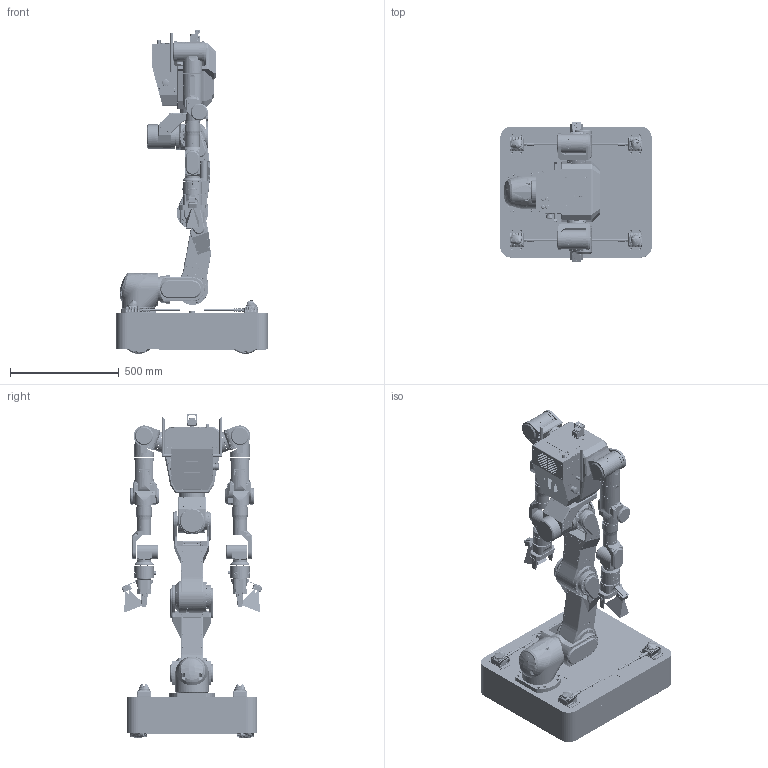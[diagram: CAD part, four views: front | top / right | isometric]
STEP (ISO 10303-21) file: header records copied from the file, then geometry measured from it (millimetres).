
FILE_DESCRIPTION(/* description */ (''),/* implementation_level */ '2;1');
FILE_NAME(/* name */ 'RB-Y1_v1.1_3D_Fast Grip_MW_260107.stp',/* time_stamp */ '2026-01-08T15:45:28+09:00',/* author */ ('KiWook.H'),/* organization */ (''),/* preprocessor_version */ 'ST-DEVELOPER v20',/* originating_system */ 'Autodesk Inventor 2025',/* authorisation */ '');
FILE_SCHEMA (('AUTOMOTIVE_DESIGN { 1 0 10303 214 3 1 1 }'));
Products named in the file (22): RB-Y1_v1.1_3D_Fast Grip_MW_260107; 000_Base_Macanum_v1.1; 001_AR_v1.1; 002_AP_v1.1; 003_KN_v1.1; 004_HP_v1.1; 005_HR_v1.1; 006_HY_v1.1; 007_SP_R_v1.1; 008_SR_R_v1.1; 009_SY_R_v1.1; 010_EL_R_v1.1; 011_WY1_R_v1.1; 012_WP_R_v1.1; 014_SP_L_v1.1; 015_SR_L_v1.1; 016_SY_L_v1.1; 017_EL_L_v1.1; 018_WY1_L_v1.1; 019_WP_L_v1.1; 020_FTsensor TF_v1.1; 021_Gripper_Fast_v1.1
Assembly tree (23 placements, depth 2):
  RB-Y1_v1.1_3D_Fast Grip_MW_260107
    000_Base_Macanum_v1.1
    001_AR_v1.1
    002_AP_v1.1
    003_KN_v1.1
    004_HP_v1.1
    005_HR_v1.1
    006_HY_v1.1
    007_SP_R_v1.1
    008_SR_R_v1.1
    009_SY_R_v1.1
    010_EL_R_v1.1
    011_WY1_R_v1.1
    012_WP_R_v1.1
    014_SP_L_v1.1
    015_SR_L_v1.1
    016_SY_L_v1.1
    017_EL_L_v1.1
    018_WY1_L_v1.1
    019_WP_L_v1.1
    020_FTsensor TF_v1.1  x2
    021_Gripper_Fast_v1.1  x2
Bounding box: 695 x 646.07 x 1486.2 mm (x, y, z)
Volume: 92745141.8 mm3; surface area: 7123697.9 mm2
Topology: 1673 solids, 2352 shells, 30890 faces, 77953 edges, 50106 vertices
Faces by surface type: plane 13889, cylinder 9032, cone 2562, torus 2137, bspline 1639, sphere 1631
Full cylindrical faces by diameter (mm): 0.6 x48, 0.7 x16, 0.9 x48, 1 x48, 1.03 x16, 1.5 x10, 1.567 x16, 1.6 x136, 1.7 x10, 2 x24, 2.013 x4, 2.05 x16, 2.2 x4, 2.4 x16, 2.459 x76, 2.5 x59, 2.6 x4, 2.693 x10, 3 x198, 3.1 x10, 3.2 x36, 3.242 x21, 3.3 x8, 3.4 x20, 3.571 x4, 3.9 x1, 4 x127, 4.134 x68, 4.2 x16, 4.5 x70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
Entity records: 1198007 total; most frequent: CARTESIAN_POINT 481326, DIRECTION 145171, ORIENTED_EDGE 141850, EDGE_CURVE 70941, AXIS2_PLACEMENT_3D 56304, VERTEX_POINT 47998, EDGE_LOOP 33221, LINE 32563
